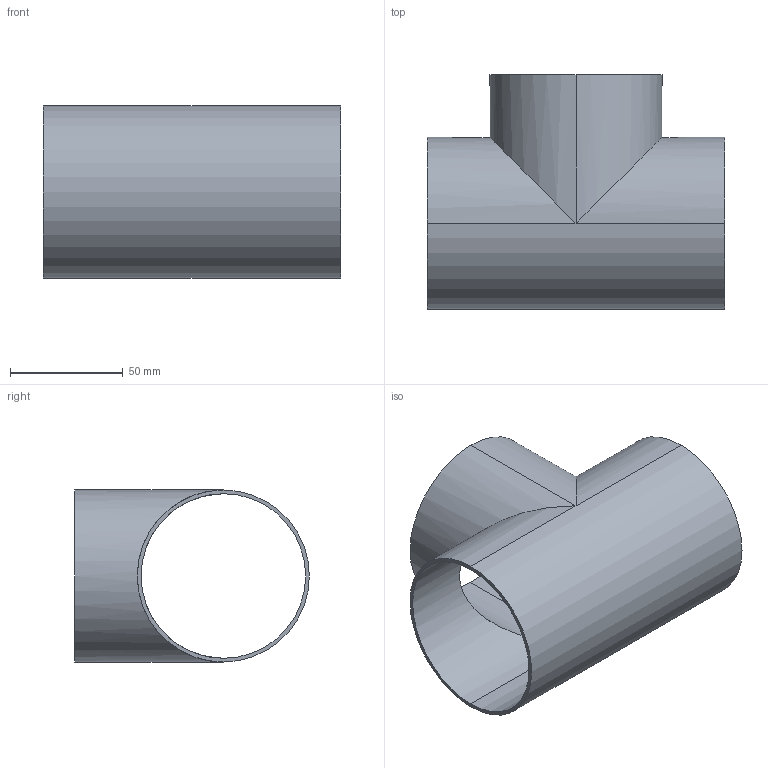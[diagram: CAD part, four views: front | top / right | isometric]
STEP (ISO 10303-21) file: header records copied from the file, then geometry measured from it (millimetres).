
FILE_DESCRIPTION (( 'STEP AP203' ), '1' );
FILE_NAME ('E7WWW3.0.STEP', '2018-05-02T17:57:48', ( 'vneprd' ), ( 'Microsoft' ), 'SwSTEP 2.0', 'SolidWorks 2014', '' );
FILE_SCHEMA (( 'CONFIG_CONTROL_DESIGN' ));
Length unit declared in the file: inch
Products named in the file (1): E7WWW3.0
Bounding box: 131.75 x 103.96 x 76.2 mm (x, y, z)
Volume: 58056.3 mm3; surface area: 71481.4 mm2
Topology: 1 solids, 1 shells, 13 faces, 28 edges, 16 vertices
Faces by surface type: cylinder 10, plane 3
Entity records: 437 total; most frequent: CARTESIAN_POINT 70, DIRECTION 64, ORIENTED_EDGE 56, EDGE_CURVE 28, AXIS2_PLACEMENT_3D 26, EDGE_LOOP 16, VERTEX_POINT 16, FACE_OUTER_BOUND 13
